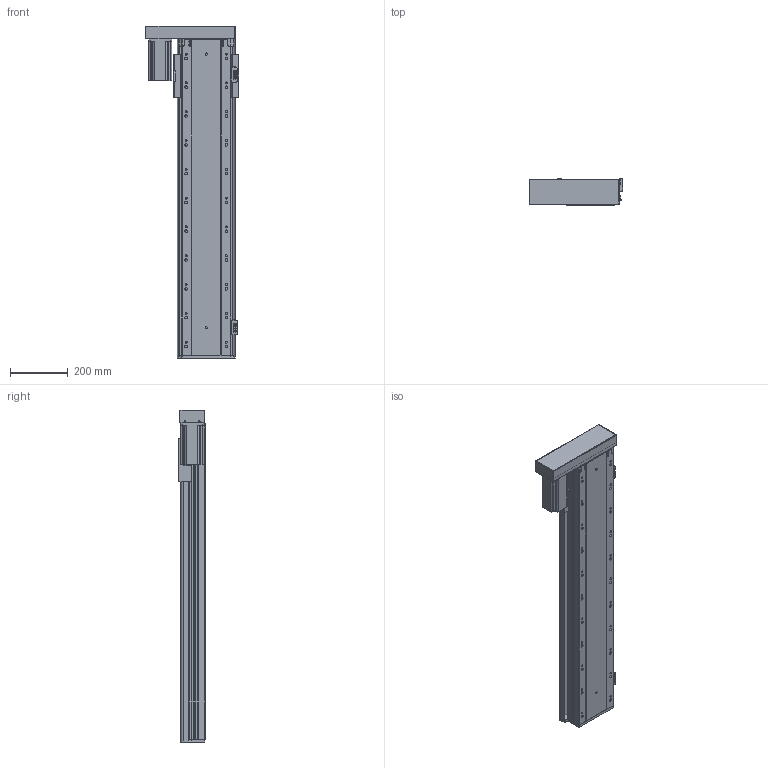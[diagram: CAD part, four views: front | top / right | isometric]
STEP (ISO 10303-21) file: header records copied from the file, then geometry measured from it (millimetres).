
FILE_DESCRIPTION (( 'STEP AP203' ), '1' );
FILE_NAME ('RY170FB-L2020-300-LK.SLDASM_850.step', '2021-02-23T03:02:50', ( '盈信电脑' ), ( '东莞市道滘镇水果街19号' ), 'SwSTEP 2.0', 'SolidWorks 2012', '' );
FILE_SCHEMA (( 'CONFIG_CONTROL_DESIGN' ));
Length unit declared in the file: millimetre
Products named in the file (16): RY170FB-L2020-300-LK.SLDASM_850; RY140FB-674嫖萇覜茼え; RY170FB-酘衵殏萇儂欶750W; RY170FB-左右折电机安装板750W; RY140-674嫖萇耀輸; RY140直线电机感应器674光电安装座; 覜茼ん674; 怢湛750W萇儂ㄗ80遺ㄘ; RY170FB-300蛌殏奻裔-LK_850; RY170FB-铝滑块(25丝杆）; RY170FB-綴裔啣; RY170FB-转折电机端支撑座(7002); 滅袉蝶18-28; 滅袉蝶18-10; RY170FB-300蛌殏倰第菁釱-LK_850
Assembly tree (18 placements, depth 3):
  RY170FB-L2020-300-LK.SLDASM_850
    RY170FB-300蛌殏倰第菁釱-LK_850
    滅袉蝶18-28
    滅袉蝶18-10
    RY170FB-转折电机端支撑座(7002)
    怢湛750W萇儂ㄗ80遺ㄘ
    RY170FB-铝滑块(25丝杆）
    RY170FB-綴裔啣
    RY170FB-300蛌殏奻裔-LK_850
    RY140-674嫖萇耀輸
      覜茼ん674  x2
      RY140直线电机感应器674光电安装座
    RY140-674嫖萇耀輸
      覜茼ん674
      RY140直线电机感应器674光电安装座
    RY140FB-674嫖萇覜茼え
    RY170FB-左右折电机安装板750W
    RY170FB-酘衵殏萇儂欶750W
Bounding box: 323.95 x 90.5 x 1152.7 mm (x, y, z)
Volume: 7216448.4 mm3; surface area: 2099438.6 mm2
Topology: 16 solids, 16 shells, 1697 faces, 4910 edges, 3124 vertices
Faces by surface type: cylinder 927, plane 598, cone 164, bspline 8
Entity records: 55711 total; most frequent: CARTESIAN_POINT 14084, ORIENTED_EDGE 8544, DIRECTION 8106, EDGE_CURVE 4272, AXIS2_PLACEMENT_3D 2968, VERTEX_POINT 2804, VECTOR 2170, LINE 2170
